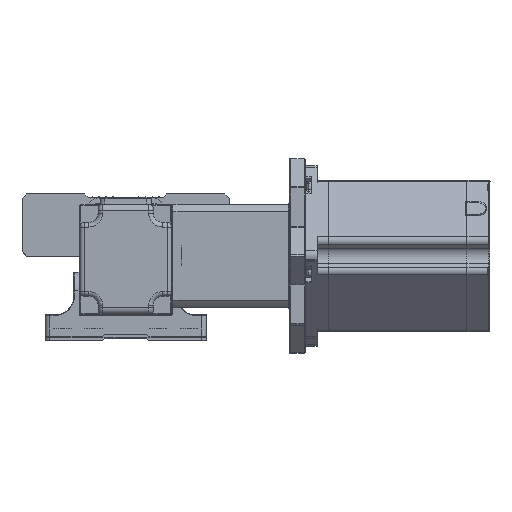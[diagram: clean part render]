
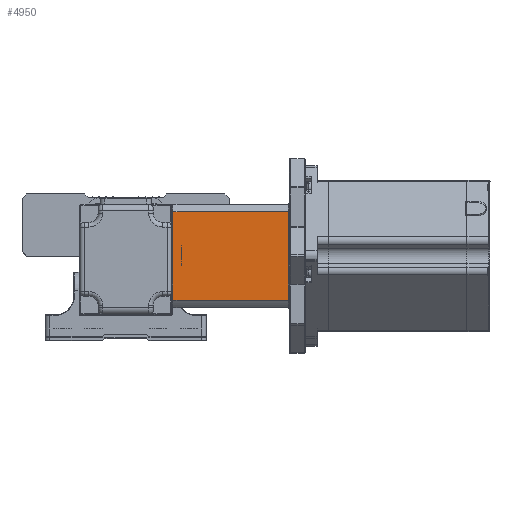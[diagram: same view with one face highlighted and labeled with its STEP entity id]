
A CAD part, top view. The second image highlights one B-rep face of the part: STEP entity #4950.
In plain terms, the highlighted planar face has unit normal (0, 0, 1) as drawn and (1, 0, 0) by its records, which use the part's own axes.
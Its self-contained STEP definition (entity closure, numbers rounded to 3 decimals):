
#565 = EDGE_CURVE ( 'NONE', #8717, #12038, #4533, .T. ) ;
#604 = PLANE ( 'NONE',  #33321 ) ;
#3187 = CARTESIAN_POINT ( 'NONE',  ( 25., 22., -19.164 ) ) ;
#4533 = LINE ( 'NONE', #18284, #28173 ) ;
#4950 = ADVANCED_FACE ( 'NONE', ( #19368 ), #604, .T. ) ;
#6471 = LINE ( 'NONE', #16673, #37945 ) ;
#8003 = EDGE_CURVE ( 'NONE', #12042, #8717, #6471, .T. ) ;
#8717 = VERTEX_POINT ( 'NONE', #41257 ) ;
#11075 = DIRECTION ( 'NONE',  ( 0., 0., -1. ) ) ;
#12038 = VERTEX_POINT ( 'NONE', #18149 ) ;
#12042 = VERTEX_POINT ( 'NONE', #18015 ) ;
#12318 = VERTEX_POINT ( 'NONE', #3187 ) ;
#12341 = DIRECTION ( 'NONE',  ( 1., 0., 0. ) ) ;
#16669 = LINE ( 'NONE', #29911, #33147 ) ;
#16673 = CARTESIAN_POINT ( 'NONE',  ( 25., 22.5, 19.164 ) ) ;
#16785 = EDGE_CURVE ( 'NONE', #12318, #12042, #37565, .T. ) ;
#16811 = DIRECTION ( 'NONE',  ( 0., -1., 0. ) ) ;
#18015 = CARTESIAN_POINT ( 'NONE',  ( 25., 22., 19.164 ) ) ;
#18149 = CARTESIAN_POINT ( 'NONE',  ( 25., -28., -19.164 ) ) ;
#18284 = CARTESIAN_POINT ( 'NONE',  ( 25., -28., 22.5 ) ) ;
#18505 = ORIENTED_EDGE ( 'NONE', *, *, #16785, .T. ) ;
#19368 = FACE_OUTER_BOUND ( 'NONE', #40643, .T. ) ;
#19996 = ORIENTED_EDGE ( 'NONE', *, *, #38602, .T. ) ;
#20288 = CARTESIAN_POINT ( 'NONE',  ( 25., 22.5, 22.5 ) ) ;
#20315 = DIRECTION ( 'NONE',  ( 0., 0., 1. ) ) ;
#28173 = VECTOR ( 'NONE', #36511, 1000. ) ;
#28889 = VECTOR ( 'NONE', #20315, 1000. ) ;
#29911 = CARTESIAN_POINT ( 'NONE',  ( 25., 22.5, -19.164 ) ) ;
#33147 = VECTOR ( 'NONE', #33209, 1000. ) ;
#33209 = DIRECTION ( 'NONE',  ( 0., 1., 0. ) ) ;
#33321 = AXIS2_PLACEMENT_3D ( 'NONE', #20288, #12341, #11075 ) ;
#33366 = CARTESIAN_POINT ( 'NONE',  ( 25., 22., 22.5 ) ) ;
#36141 = ORIENTED_EDGE ( 'NONE', *, *, #565, .T. ) ;
#36511 = DIRECTION ( 'NONE',  ( 0., 0., -1. ) ) ;
#37565 = LINE ( 'NONE', #33366, #28889 ) ;
#37945 = VECTOR ( 'NONE', #16811, 1000. ) ;
#38602 = EDGE_CURVE ( 'NONE', #12038, #12318, #16669, .T. ) ;
#40643 = EDGE_LOOP ( 'NONE', ( #19996, #18505, #40836, #36141 ) ) ;
#40836 = ORIENTED_EDGE ( 'NONE', *, *, #8003, .T. ) ;
#41257 = CARTESIAN_POINT ( 'NONE',  ( 25., -28., 19.164 ) ) ;
